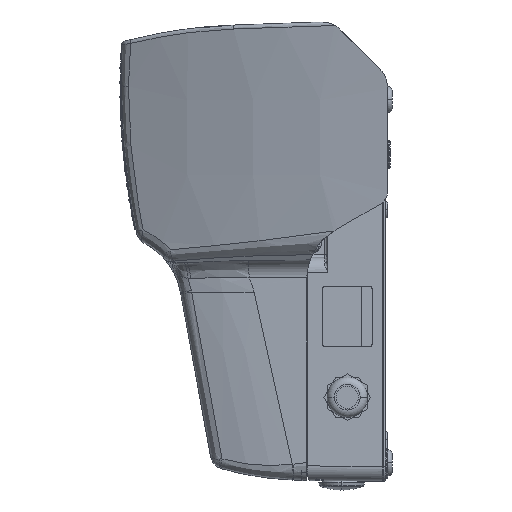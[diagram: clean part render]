
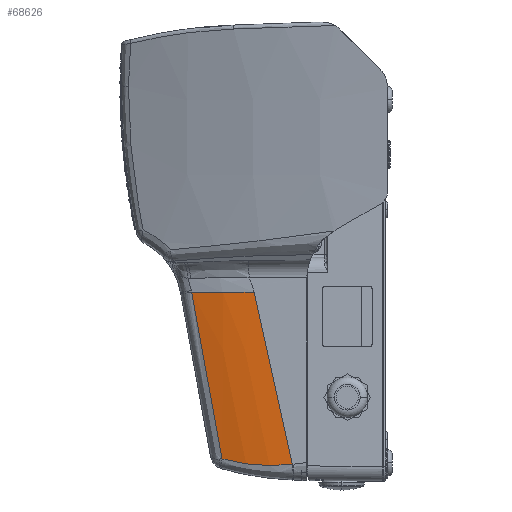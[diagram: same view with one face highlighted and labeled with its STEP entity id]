
A CAD part, left-side view. The second image highlights one B-rep face of the part: STEP entity #68626.
In plain terms, the highlighted free-form (B-spline) face has degree [3, 3] with [4, 4] control points.
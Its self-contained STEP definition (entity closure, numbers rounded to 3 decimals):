
#8183=CARTESIAN_POINT('',(-37.336,50.915,
-121.279));
#8184=CARTESIAN_POINT('',(-37.491,57.808,
-90.015));
#8185=CARTESIAN_POINT('',(-37.644,64.75,
-58.752));
#8186=CARTESIAN_POINT('',(-37.795,71.755,
-27.488));
#8318=CARTESIAN_POINT('',(-31.473,89.292,
-118.337));
#8319=CARTESIAN_POINT('',(-31.566,88.94,
-118.433));
#8320=CARTESIAN_POINT('',(-31.751,88.23,
-118.621));
#8321=CARTESIAN_POINT('',(-32.025,87.148,
-118.899));
#8322=CARTESIAN_POINT('',(-32.294,86.063,
-119.165));
#8323=CARTESIAN_POINT('',(-32.554,84.99,
-119.416));
#8324=CARTESIAN_POINT('',(-32.805,83.927,
-119.653));
#8325=CARTESIAN_POINT('',(-33.065,82.798,
-119.892));
#8326=CARTESIAN_POINT('',(-33.346,81.539,
-120.143));
#8327=CARTESIAN_POINT('',(-33.663,80.072,
-120.416));
#8328=CARTESIAN_POINT('',(-34.009,78.4,
-120.701));
#8329=CARTESIAN_POINT('',(-34.376,76.54,
-120.984));
#8330=CARTESIAN_POINT('',(-34.749,74.535,
-121.249));
#8331=CARTESIAN_POINT('',(-35.103,72.499,
-121.475));
#8332=CARTESIAN_POINT('',(-35.431,70.483,
-121.659));
#8333=CARTESIAN_POINT('',(-35.733,68.477,
-121.8));
#8334=CARTESIAN_POINT('',(-36.01,66.484,
-121.9));
#8335=CARTESIAN_POINT('',(-36.261,64.501,
-121.96));
#8336=CARTESIAN_POINT('',(-36.489,62.53,
-121.98));
#8337=CARTESIAN_POINT('',(-36.691,60.569,
-121.96));
#8338=CARTESIAN_POINT('',(-36.869,58.618,
-121.901));
#8339=CARTESIAN_POINT('',(-37.023,56.677,
-121.804));
#8340=CARTESIAN_POINT('',(-37.153,54.746,
-121.669));
#8341=CARTESIAN_POINT('',(-37.258,52.825,
-121.496));
#8342=CARTESIAN_POINT('',(-37.313,51.55,
-121.355));
#8343=CARTESIAN_POINT('',(-37.336,50.915,
-121.279));
#8385=CARTESIAN_POINT('',(-32.902,105.82,
-27.488));
#8386=CARTESIAN_POINT('',(-32.76,104.172,
-36.555));
#8387=CARTESIAN_POINT('',(-32.465,100.75,
-55.372));
#8388=CARTESIAN_POINT('',(-31.992,95.273,
-85.478));
#8389=CARTESIAN_POINT('',(-31.65,91.331,
-107.138));
#8390=CARTESIAN_POINT('',(-31.473,89.292,
-118.337));
#9739=CARTESIAN_POINT('',(-32.902,105.82,
-27.488));
#9740=CARTESIAN_POINT('',(-35.749,94.685,
-27.488));
#9741=CARTESIAN_POINT('',(-37.394,83.242,
-27.488));
#9742=CARTESIAN_POINT('',(-37.795,71.755,
-27.488));
#9752=CARTESIAN_POINT('',(-32.902,105.82,
-27.488));
#59107=VERTEX_POINT('',#8318);
#59108=VERTEX_POINT('',#8343);
#59111=VERTEX_POINT('',#8186);
#59784=VERTEX_POINT('',#9752);
#68601=CARTESIAN_POINT('',(-31.199,89.167,
-122.918));
#68602=CARTESIAN_POINT('',(-31.657,95.209,
-90.793));
#68603=CARTESIAN_POINT('',(-32.115,101.258,
-58.668));
#68604=CARTESIAN_POINT('',(-32.573,107.315,
-26.544));
#68605=CARTESIAN_POINT('',(-34.877,76.364,
-122.918));
#68606=CARTESIAN_POINT('',(-35.147,82.735,
-90.793));
#68607=CARTESIAN_POINT('',(-35.417,89.128,
-58.668));
#68608=CARTESIAN_POINT('',(-35.685,95.55,
-26.544));
#68609=CARTESIAN_POINT('',(-36.952,63.101,
-122.918));
#68610=CARTESIAN_POINT('',(-37.12,69.836,
-90.793));
#68611=CARTESIAN_POINT('',(-37.287,76.608,
-58.668));
#68612=CARTESIAN_POINT('',(-37.452,83.429,
-26.544));
#68613=CARTESIAN_POINT('',(-37.353,49.786,
-122.918));
#68614=CARTESIAN_POINT('',(-37.511,56.888,
-90.793));
#68615=CARTESIAN_POINT('',(-37.668,64.043,
-58.668));
#68616=CARTESIAN_POINT('',(-37.823,71.265,
-26.544));
#68617=B_SPLINE_SURFACE_WITH_KNOTS('',3,3,((#68601,#68602,#68603,#68604),
(#68605,#68606,#68607,#68608),(#68609,#68610,#68611,#68612),(#68613,#68614,
#68615,#68616)),.UNSPECIFIED.,.F.,.F.,.F.,(4,4),(4,4),(0.121,
1.017),(0.07,1.009),.UNSPECIFIED.);
#68618=ORIENTED_EDGE('',*,*,#68584,.F.);
#68620=ORIENTED_EDGE('',*,*,#68619,.F.);
#68622=ORIENTED_EDGE('',*,*,#68621,.T.);
#68623=ORIENTED_EDGE('',*,*,#68410,.F.);
#68624=EDGE_LOOP('',(#68618,#68620,#68622,#68623));
#68625=FACE_OUTER_BOUND('',#68624,.F.);
#8187=B_SPLINE_CURVE_WITH_KNOTS('',3,(#8183,#8184,#8185,#8186),.UNSPECIFIED.,
.F.,.F.,(4,4),(0.,1.),.UNSPECIFIED.);
#8344=B_SPLINE_CURVE_WITH_KNOTS('',3,(#8318,#8319,#8320,#8321,#8322,#8323,#8324,
#8325,#8326,#8327,#8328,#8329,#8330,#8331,#8332,#8333,#8334,#8335,#8336,#8337,
#8338,#8339,#8340,#8341,#8342,#8343),.UNSPECIFIED.,.F.,.F.,(4,1,1,1,1,1,1,1,1,1,
1,1,1,1,1,1,1,1,1,1,1,1,1,4),(0.,0.043,0.087,
0.13,0.174,0.217,0.261,
0.304,0.348,0.391,0.435,
0.478,0.522,0.565,0.609,
0.652,0.696,0.739,0.783,
0.826,0.87,0.913,0.957,1.),
.UNSPECIFIED.);
#8391=B_SPLINE_CURVE_WITH_KNOTS('',3,(#8385,#8386,#8387,#8388,#8389,#8390),
.UNSPECIFIED.,.F.,.F.,(4,1,1,4),(0.,0.333,0.667,1.),
.UNSPECIFIED.);
#9743=B_SPLINE_CURVE_WITH_KNOTS('',3,(#9739,#9740,#9741,#9742),.UNSPECIFIED.,
.F.,.F.,(4,4),(0.,1.),.UNSPECIFIED.);
#68410=EDGE_CURVE('',#59108,#59111,#8187,.T.);
#68584=EDGE_CURVE('',#59107,#59108,#8344,.T.);
#68619=EDGE_CURVE('',#59784,#59107,#8391,.T.);
#68621=EDGE_CURVE('',#59784,#59111,#9743,.T.);
#68626=ADVANCED_FACE('',(#68625),#68617,.T.);
